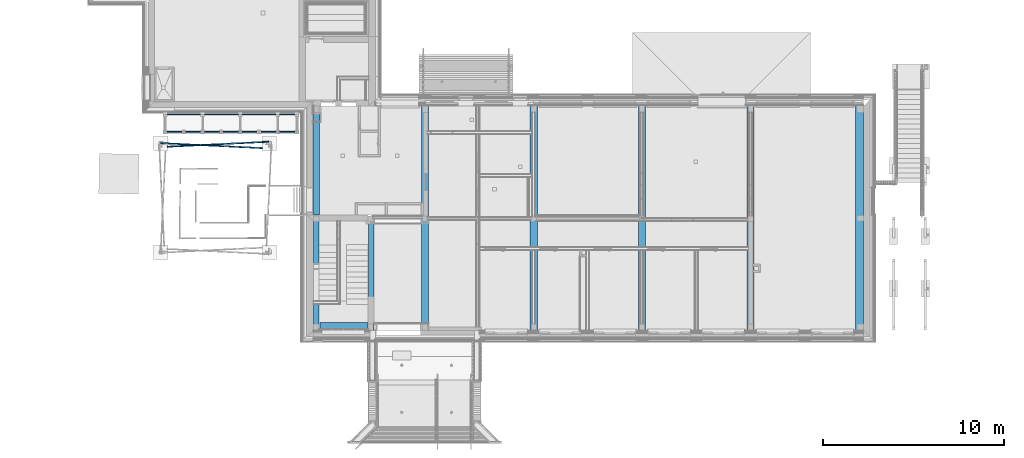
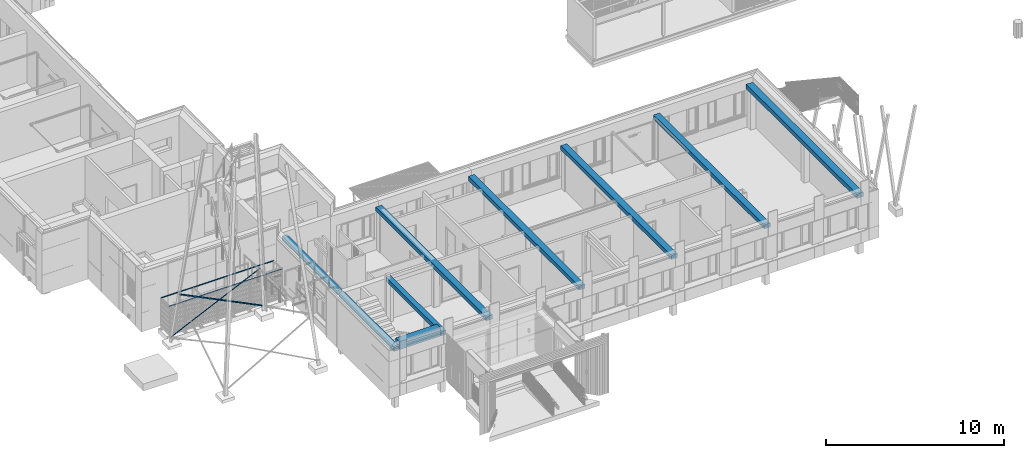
# One storey, part 12 of 418: 13 beams.
"""IFC2X3 building model written with IfcOpenShell, lengths in millimetres."""

from ifc_helpers import new_model, entity, si_unit, converted_unit, derived_unit, money_unit, direction, frame, frame_2d, origin_with_axes, place, context, subcontext, project, spatial, polyline, rectangle, outline, extrude, clip, halfspace, material, type_object, element, save


model = new_model("IFC2X3")

# Units and contexts
model_context = context("Model", 3, precision=0.01, world=origin_with_axes(), true_north=direction((0.0, 1.0)))
body_context = subcontext(model_context, "Body", "Model", "MODEL_VIEW")
ifc_project = project(units=[si_unit("LENGTHUNIT", "METRE", prefix="MILLI"), si_unit("AREAUNIT", "SQUARE_METRE"), si_unit("VOLUMEUNIT", "CUBIC_METRE"), converted_unit("PLANEANGLEUNIT", "DEGREE", entity("IfcPlaneAngleMeasure", 0.0174532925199), si_unit("PLANEANGLEUNIT", "RADIAN"), dimensions=[0, 0, 0, 0, 0, 0, 0]), si_unit("SOLIDANGLEUNIT", "STERADIAN"), money_unit("EUR"), converted_unit("TIMEUNIT", "Year", entity("IfcTimeMeasure", 31556926.0), si_unit("TIMEUNIT", "SECOND"), dimensions=[0, 0, 1, 0, 0, 0, 0]), si_unit("MASSUNIT", "GRAM", prefix="KILO"), si_unit("THERMODYNAMICTEMPERATUREUNIT", "DEGREE_CELSIUS"), si_unit("LUMINOUSINTENSITYUNIT", "LUMEN"), si_unit("ENERGYUNIT", "JOULE", prefix="MEGA"), derived_unit("THERMALCONDUCTANCEUNIT", [(si_unit("POWERUNIT", "WATT"), 1), (si_unit("LENGTHUNIT", "METRE"), -1), (si_unit("THERMODYNAMICTEMPERATUREUNIT", "KELVIN"), -1)]), derived_unit("SPECIFICHEATCAPACITYUNIT", [(si_unit("ENERGYUNIT", "JOULE"), 1), (si_unit("MASSUNIT", "GRAM", prefix="KILO"), -1), (si_unit("THERMODYNAMICTEMPERATUREUNIT", "KELVIN"), -1)]), derived_unit("MASSDENSITYUNIT", [(si_unit("MASSUNIT", "GRAM", prefix="KILO"), 1), (si_unit("VOLUMEUNIT", "CUBIC_METRE"), -1)])], contexts=[model_context])

# Site, building, storey
site_placement = place(None, origin_with_axes())
site = spatial("IfcSite", under=ifc_project, at=site_placement, Name="Paldiski mnt 245/1, Tallinn, Harjumaa", CompositionType="COMPLEX")
building_placement = place(site_placement, origin_with_axes())
building = spatial("IfcBuilding", under=site, at=building_placement, Name="RKAS Hoone üldnimetus (kasutust iseloomustav) -> IFC Project Manager -> SOLIBRI", CompositionType="ELEMENT")
storey_placement = place(building_placement, origin_with_axes())
storey = spatial("IfcBuildingStorey", under=building, at=storey_placement, Name="Esimene korrus", CompositionType="ELEMENT", Elevation=0.0)

# Beams
ifc_material_1 = material(Name="Olemasolev raudbetoontala")
beam_type_1 = type_object("IfcBeamType", Name="Olemasolev raudbetoontala 550", PredefinedType="BEAM")
beam_1_placement = place(storey_placement, frame((-44590.0, -12510.0840871, 3220.0), z_axis=(0.0, 0.0, 1.0), x_axis=(1.0, 0.0, 0.0)))
element("IfcBeam", 1, at=beam_1_placement, inside=storey, type_object=beam_type_1, material=ifc_material_1, Name="Tala", ObjectType="BEAM", context=body_context, shape_type="SweptSolid", body=[
    extrude(outline(polyline([(0.0, 0.0), (0.0, 430.0), (-2660.0, 430.0), (-2660.0, 0.0), (0.0, 0.0)])), frame((0.0, 0.0, -550.0), z_axis=(0.0, 0.0, 1.0), x_axis=(1.0, 0.0, 0.0)), (0.0, 0.0, 1.0), 550.0),
])
beam_type_2 = type_object("IfcBeamType", Name="Olemasolev raudbetoontala 400 x 280", PredefinedType="BEAM")
for number, where, z_axis, x_axis in (
    (2, (-41440.0, -12510.0840871, 2950.0), (0.0, 0.0, 1.0), (1.0, 0.0, 0.0)),
    (3, (-23460.0, -12510.0840871, 2950.0), (0.0, 0.0, 1.0), (1.0, 0.0, 0.0)),
    (4, (-35440.0, -12510.0840871, 2950.0), (0.0, 0.0, 1.0), (1.0, 0.0, 0.0)),
    (5, (-29460.0, -12510.0840871, 2950.0), (0.0, 0.0, 1.0), (1.0, 0.0, 0.0)),
):
    element("IfcBeam", number, at=place(storey_placement, frame(where, z_axis=z_axis, x_axis=x_axis)), inside=storey, type_object=beam_type_2, material=ifc_material_1, Name="TALA", ObjectType="BEAM", context=body_context, shape_type="SweptSolid", body=[
        extrude(rectangle(XDim=280.0, YDim=400.0, at=frame_2d((-140.0, 0.0), x_axis=(1.0, 0.0))), frame((0.0, 0.0, 0.0), z_axis=(0.0, 1.0, 0.0), x_axis=(0.0, 0.0, 1.0)), (0.0, 0.0, 1.0), 12400.0840871),
    ])
beam_type_3 = type_object("IfcBeamType", Name="Olemasolev raudbetoontala 430 x 310", PredefinedType="BEAM")
beam_2_placement = place(storey_placement, frame((-17445.0001837, -12510.0840871, 2950.0), z_axis=(0.0, 0.0, 1.0), x_axis=(1.0, 0.0, 0.0)))
element("IfcBeam", 6, at=beam_2_placement, inside=storey, type_object=beam_type_3, material=ifc_material_1, Name="TALA", ObjectType="BEAM", context=body_context, shape_type="SweptSolid", body=[
    extrude(rectangle(XDim=310.000011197, YDim=430.000367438, at=frame_2d((-155.000005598, 0.0), x_axis=(1.0, 0.0))), frame((0.0, 0.0, 0.0), z_axis=(0.0, 1.0, 0.0), x_axis=(0.0, 0.0, 1.0)), (0.0, 0.0, 1.0), 12400.0840871),
])
beam_type_4 = type_object("IfcBeamType", Name="Olemasolev raudbetoontala 320 x 280", PredefinedType="BEAM")
for number, where, z_axis, x_axis in (
    (7, (-47449.7292492, -12510.0843011, 2950.0), (0.0, 0.0, 1.0), (1.0, 0.0, 0.0)),
    (8, (-44410.0000219, -12510.0840871, 2950.0), (0.0, 0.0, 1.0), (1.0, 0.0, 0.0)),
    (9, (-47440.0, -6130.08408706, 2950.0), (0.0, 0.0, 1.0), (1.0, 0.0, 0.0)),
):
    element("IfcBeam", number, at=place(storey_placement, frame(where, z_axis=z_axis, x_axis=x_axis)), inside=storey, type_object=beam_type_4, material=ifc_material_1, Name="TALA", ObjectType="BEAM", context=body_context, shape_type="SweptSolid", body=[
        extrude(rectangle(XDim=280.0, YDim=320.0, at=frame_2d((-140.0, 0.0), x_axis=(1.0, 0.0))), frame((0.0, 0.0, 0.0), z_axis=(0.0, 1.0, 0.0), x_axis=(0.0, 0.0, 1.0)), (0.0, 0.0, 1.0), 6180.08408706),
    ])
ifc_material_2 = material(Name="SV-03_Plaat - Põrand")
beam_type_5 = type_object("IfcBeamType", Name="TORN_KONST_5 70 x 70", PredefinedType="BEAM")
beam_3_placement = place(storey_placement, frame((-56045.0760952, -2124.70783241, 282.411597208), z_axis=(0.0, 0.0, 1.0), x_axis=(-0.049169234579, -0.998790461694, 0.0)))
element("IfcBeam", 10, at=beam_3_placement, inside=storey, type_object=beam_type_5, material=ifc_material_2, Name="TALA", ObjectType="BEAM", context=body_context, shape_type="Clipping", body=[
    clip(clip(extrude(outline(polyline([(0.0, 0.0), (0.0, 70.0), (-70.0, 70.0), (-70.0, 60.0), (-10.0, 60.0), (-10.0, 0.0), (0.0, 0.0)])), frame((0.0, 5654.86408347, 2928.159223), z_axis=(0.0, 0.888010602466, 0.459822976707), x_axis=(-0.996194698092, 0.0400762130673, -0.0773952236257)), (0.0, 0.0, -1.0), 6419.27497254), halfspace(frame((0.0, 0.0, 0.0), z_axis=(0.0, 1.0, 0.0), x_axis=(0.0, 0.0, 1.0)), True)), halfspace(frame((0.0, 5609.34393117, 0.0), z_axis=(0.0, -1.0, 0.0), x_axis=(0.0, 0.0, -1.0)), True)),
])
beam_4_placement = place(storey_placement, frame((-50075.2638432, -2115.22718019, 307.999958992), z_axis=(0.0, 0.0, 1.0), x_axis=(-0.0491692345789, 0.998790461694, 0.0)))
element("IfcBeam", 11, at=beam_4_placement, inside=storey, type_object=beam_type_5, material=ifc_material_2, Name="TALA", ObjectType="BEAM", context=body_context, shape_type="Clipping", body=[
    clip(clip(extrude(outline(polyline([(0.0, 0.0), (0.0, 70.0), (-70.0, 70.0), (-70.0, 60.0), (-10.0, 60.0), (-10.0, 0.0), (0.0, 0.0)])), frame((0.0, 5654.86408347, 2928.159223), z_axis=(0.0, 0.888010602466, 0.459822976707), x_axis=(-0.994521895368, -0.0480645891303, 0.0928223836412)), (0.0, 0.0, -1.0), 6419.27497254), halfspace(frame((0.0, 0.0, 0.0), z_axis=(0.0, 1.0, 0.0), x_axis=(0.0, 0.0, 1.0)), True)), halfspace(frame((0.0, 5609.34393117, 0.0), z_axis=(0.0, -1.0, 0.0), x_axis=(0.0, 0.0, -1.0)), True)),
])
ifc_material_3 = material(Name="VKR-04_Tellis")
beam_type_6 = type_object("IfcBeamType", Name="CFRHS50X50X5 50 x 50", PredefinedType="BEAM")
beam_5_placement = place(storey_placement, frame((-55814.3907599, -1530.71022117, 1970.0), z_axis=(0.0, 0.0, 1.0), x_axis=(0.0, -1.0, 0.0)))
element("IfcBeam", 12, at=beam_5_placement, inside=storey, type_object=beam_type_6, material=ifc_material_3, Name="TALA", ObjectType="BEAM", context=body_context, shape_type="SweptSolid", body=[
    extrude(outline(polyline([(-25.0, -25.0), (25.0, -25.0), (25.0, 25.0), (-25.0, 25.0), (-25.0, -25.0)]), holes=[polyline([(-20.0, -20.0), (-20.0, 20.0), (20.0, 20.0), (20.0, -20.0), (-20.0, -20.0)])]), frame((0.0, 7308.96763684, 0.0), z_axis=(0.0, -1.0, 0.0), x_axis=(1.0, 0.0, 0.0)), (0.0, 0.0, 1.0), 7308.96763684),
])
beam_6_placement = place(storey_placement, frame((-48504.4231231, -580.710221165, 1970.0), z_axis=(0.0, 0.0, 1.0), x_axis=(0.0, 1.0, 0.0)))
element("IfcBeam", 13, at=beam_6_placement, inside=storey, type_object=beam_type_6, material=ifc_material_3, Name="TALA", ObjectType="BEAM", context=body_context, shape_type="SweptSolid", body=[
    extrude(outline(polyline([(-25.0, -25.0), (25.0, -25.0), (25.0, 25.0), (-25.0, 25.0), (-25.0, -25.0)]), holes=[polyline([(-20.0, -20.0), (-20.0, 20.0), (20.0, 20.0), (20.0, -20.0), (-20.0, -20.0)])]), frame((0.0, 7309.96763684, 0.0), z_axis=(0.0, -1.0, 0.0), x_axis=(1.0, 0.0, 0.0)), (0.0, 0.0, 1.0), 7309.96763684),
])

save(model, "model.ifc")
